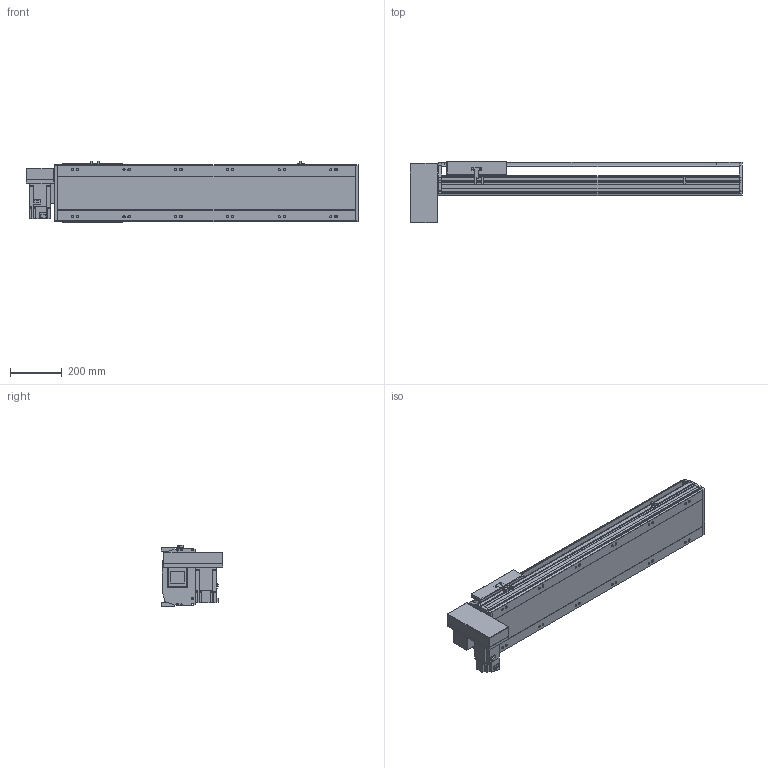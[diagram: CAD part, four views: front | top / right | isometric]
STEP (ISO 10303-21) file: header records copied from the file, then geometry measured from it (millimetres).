
FILE_DESCRIPTION(/* description */ ('STEP AP214'),/* implementation_level */ '2;1');
FILE_NAME(/* name */ 'PBS220-P40-S800-RD-T75-C1-N(0)',/* time_stamp */ '2022-06-13T02:41:31+02:00',/* author */ ('License CC BY-ND 4.0'),/* organization */ ('CADENAS'),/* preprocessor_version */ 'ST-DEVELOPER v18.102',/* originating_system */ 'PARTsolutions',/* authorisation */ ' ');
FILE_SCHEMA (('AUTOMOTIVE_DESIGN {1 0 10303 214 3 1 1}'));
Length unit declared in the file: millimetre
Products named in the file (7): PBS220-P40-S800-RD-T75-C1-N(0); PBS220_sensor; PBS220_plant; PBS220_sliser; T75-p1; PBS220T-RD_motors; PBS220-S800()_body
Assembly tree (8 placements, depth 2):
  PBS220-P40-S800-RD-T75-C1-N(0)
    PBS220_sensor  x3
    PBS220_plant
    PBS220_sliser
    T75-p1
    PBS220T-RD_motors
    PBS220-S800()_body
Bounding box: 1284 x 239 x 238.5 mm (x, y, z)
Volume: 18768953.3 mm3; surface area: 1869488.4 mm2
Topology: 8 solids, 8 shells, 890 faces, 2340 edges, 1522 vertices
Faces by surface type: plane 590, cylinder 264, cone 36
Full cylindrical faces by diameter (mm): 2.013 x4, 4.5 x14, 4.917 x4, 6 x7, 6.647 x8, 8 x10, 8.376 x12, 8.5 x12, 10 x6, 14 x12, 38 x2, 40 x1, 70 x1
Entity records: 25005 total; most frequent: CARTESIAN_POINT 4360, DIRECTION 4347, ORIENTED_EDGE 4034, EDGE_CURVE 2017, AXIS2_PLACEMENT_3D 1503, VERTEX_POINT 1384, LINE 1341, VECTOR 1341
